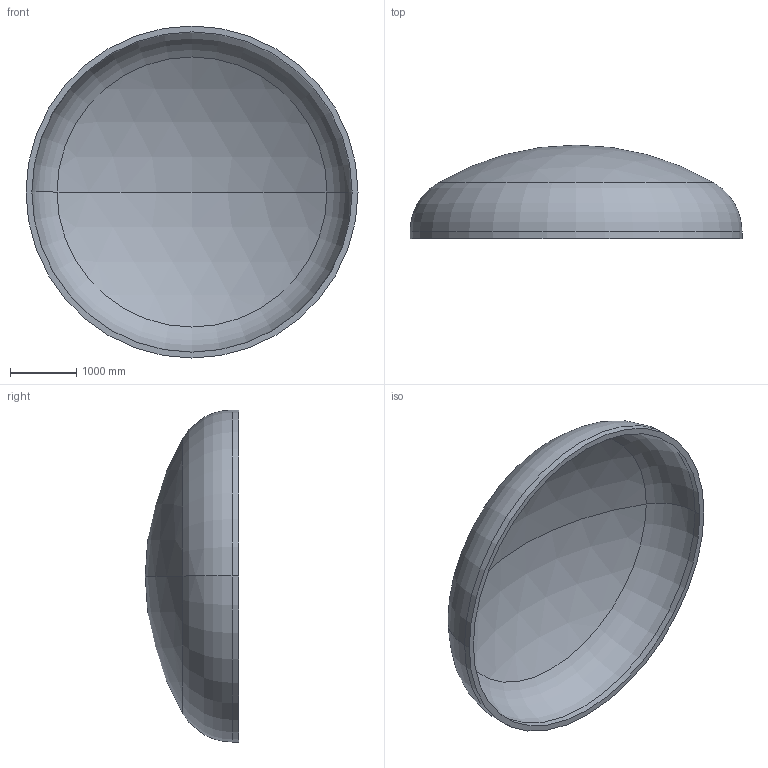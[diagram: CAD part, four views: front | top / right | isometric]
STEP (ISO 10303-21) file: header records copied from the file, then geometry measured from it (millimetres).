
FILE_DESCRIPTION (( 'STEP AP203' ), '1' );
FILE_NAME ('DIN 28013 Korbbogenform_-_Boden DIN 28013 - 5000 x 100 - I - s=88.step', '2016-07-02T00:50:47', ( '' ), ( '' ), 'SwSTEP 2.0', 'SolidWorks 2013', '' );
FILE_SCHEMA (( 'CONFIG_CONTROL_DESIGN' ));
Length unit declared in the file: millimetre
Products named in the file (1): DIN 28013 Korbbogenform_-_Boden DIN 28013 - 5000 x 100 - I - s=88
Bounding box: 5000 x 1406.5 x 5000 mm (x, y, z)
Volume: 2473982144.8 mm3; surface area: 57601037.6 mm2
Topology: 1 solids, 1 shells, 13 faces, 24 edges, 14 vertices
Faces by surface type: torus 4, cylinder 4, sphere 4, plane 1
Entity records: 407 total; most frequent: DIRECTION 72, CARTESIAN_POINT 52, ORIENTED_EDGE 48, AXIS2_PLACEMENT_3D 34, EDGE_CURVE 24, CIRCLE 20, EDGE_LOOP 14, VERTEX_POINT 14
